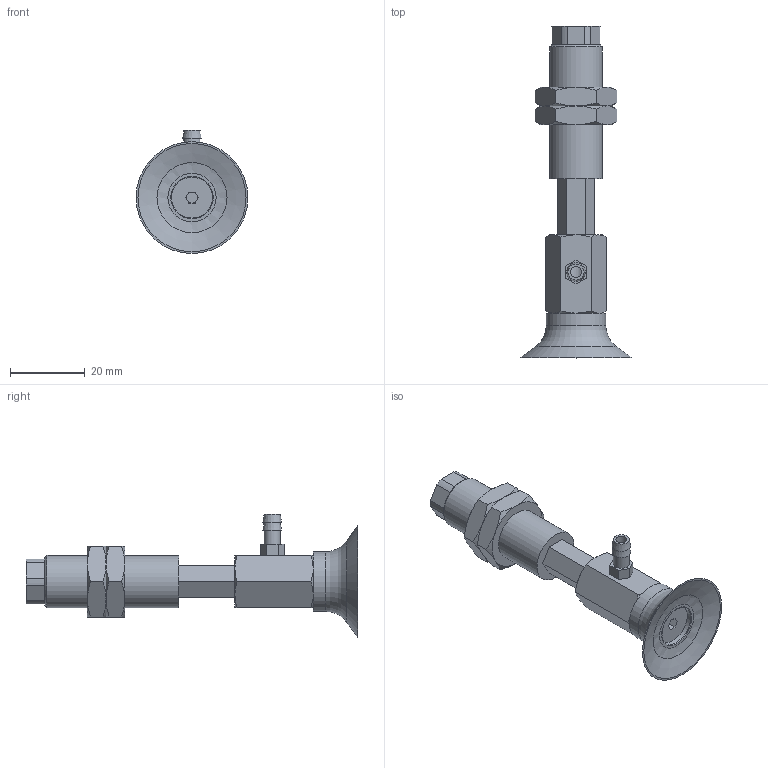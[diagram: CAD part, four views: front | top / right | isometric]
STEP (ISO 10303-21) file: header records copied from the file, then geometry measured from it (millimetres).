
FILE_DESCRIPTION(('STEP AP203'),'1');
FILE_NAME('-T.stp','2025-04-10T07:46:17',(' '),(' '),'Spatial InterOp 3D',' ',' ');
FILE_SCHEMA(('CONFIG_CONTROL_DESIGN'));
Length unit declared in the file: millimetre
Products named in the file (8): BNABPFYH-30-15-※-T; TN-PF-30-M6-NAPF; CONNECTOR-H-30-15; Nut-30-15-h; NAPFTH-30-15-FBODY; NAPFTH-30-15-MBODY; BPFG-30-※; T
Assembly tree (8 placements, depth 2):
  BNABPFYH-30-15-※-T
    TN-PF-30-M6-NAPF
    CONNECTOR-H-30-15
    Nut-30-15-h  x2
    NAPFTH-30-15-FBODY
    NAPFTH-30-15-MBODY
    BPFG-30-※
    T
Bounding box: 30 x 89 x 33 mm (x, y, z)
Volume: 14642.8 mm3; surface area: 11733.7 mm2
Topology: 8 solids, 8 shells, 173 faces, 369 edges, 226 vertices
Faces by surface type: plane 90, cone 54, cylinder 23, torus 5, bspline 1
Full cylindrical faces by diameter (mm): 3 x3, 4.134 x2, 4.3 x1, 4.917 x1, 5 x2, 6 x2, 11 x2, 12.917 x2, 14 x1, 16 x1
Entity records: 4545 total; most frequent: CARTESIAN_POINT 1057, DIRECTION 644, ORIENTED_EDGE 564, EDGE_CURVE 282, AXIS2_PLACEMENT_3D 255, EDGE_LOOP 214, VERTEX_POINT 196, FACE_OUTER_BOUND 172
